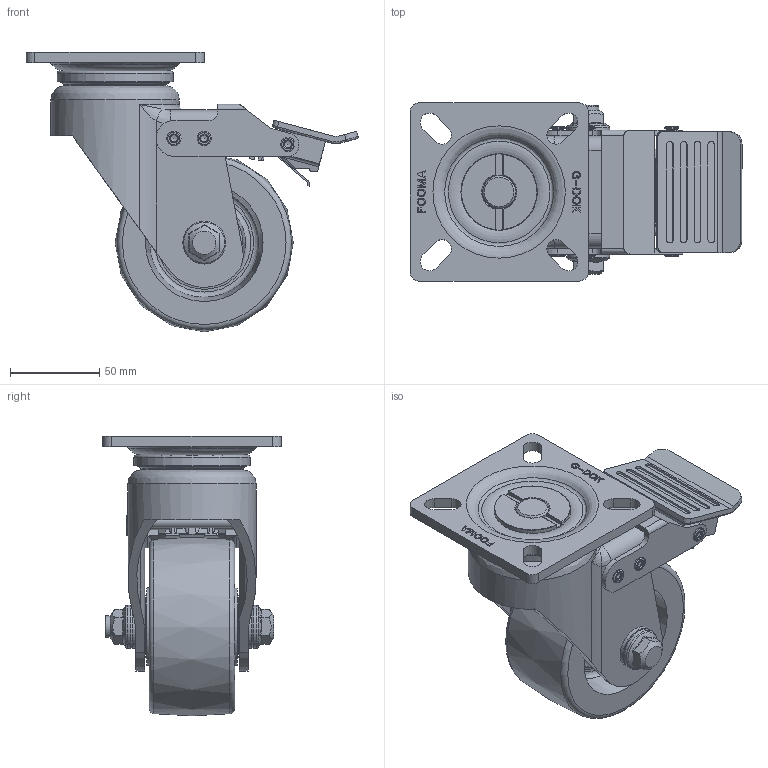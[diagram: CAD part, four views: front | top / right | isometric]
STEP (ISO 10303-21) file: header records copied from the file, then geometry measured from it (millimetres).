
FILE_DESCRIPTION((''),'2;1');
FILE_NAME('C:\Documents and Settings\Administrator\바탕 화면\3D STEP\PHS-SERIES\PHS-100\PHS-100B-SF.stp','2010-12-27T14:47:01',('Administrator'),(''),'Autodesk Inventor 2009','Autodesk Inventor 2009','');
FILE_SCHEMA(('AUTOMOTIVE_DESIGN { 1 0 10303 214 1 1 1 1 }'));
Length unit declared in the file: millimetre
Products named in the file (1): PHS-100B-SF
Bounding box: 186.27 x 100 x 156.88 mm (x, y, z)
Volume: 558284.5 mm3; surface area: 175232.9 mm2
Topology: 11 solids, 13 shells, 1010 faces, 2725 edges, 1772 vertices
Faces by surface type: plane 618, cylinder 231, torus 68, bspline 58, cone 27, sphere 8
Full cylindrical faces by diameter (mm): 3 x1, 4 x6, 5 x1, 6 x3, 6.1 x10, 6.2 x2, 8 x6, 12 x1, 15 x2, 15.2 x2, 18.5 x2, 21.5 x1, 22 x1, 24 x4, 29.9 x1, 30.5 x2, 31 x1, 31.615 x2, 35 x2, 41 x1, 42.8 x1, 44 x2, 48.961 x2, 61 x1, 62 x1, 63.14 x1, 65.14 x1, 72 x1
Entity records: 33695 total; most frequent: CARTESIAN_POINT 9145, ORIENTED_EDGE 4996, DIRECTION 4907, EDGE_CURVE 2498, VECTOR 1767, LINE 1767, VERTEX_POINT 1701, AXIS2_PLACEMENT_3D 1570
